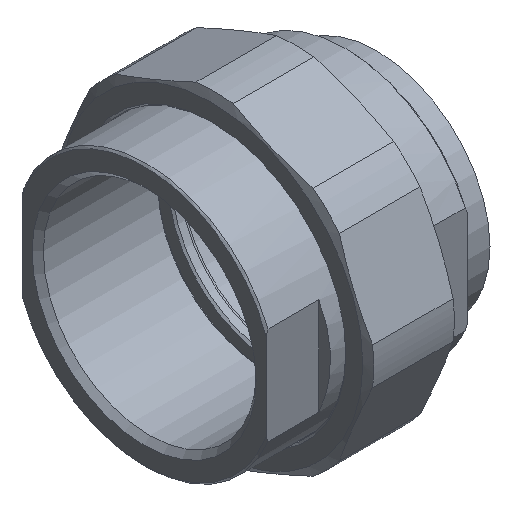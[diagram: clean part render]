
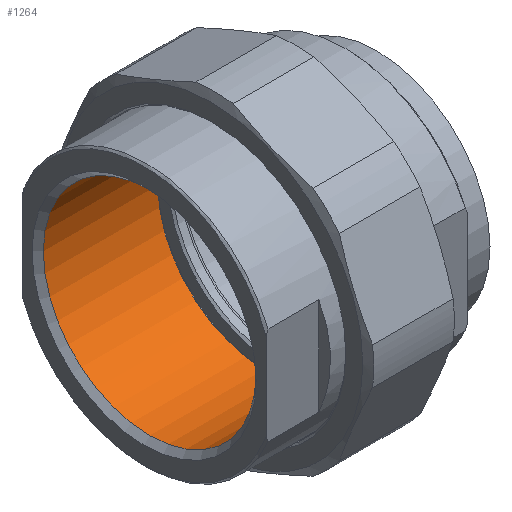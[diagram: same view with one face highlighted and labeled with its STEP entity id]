
A CAD part, isometric view. The second image highlights one B-rep face of the part: STEP entity #1264.
In plain terms, the highlighted cylindrical face has radius 28.328 mm (diameter 56.656 mm), a full revolution.
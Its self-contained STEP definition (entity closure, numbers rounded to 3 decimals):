
#202=FACE_OUTER_BOUND('',#289,.T.);
#289=EDGE_LOOP('',(#1150,#1151,#1152,#1153,#1154));
#347=LINE('',#2359,#405);
#405=VECTOR('',#1919,28.328);
#500=CIRCLE('',#1507,28.328);
#501=CIRCLE('',#1509,28.328);
#502=CIRCLE('',#1510,28.328);
#620=VERTEX_POINT('',#2351);
#621=VERTEX_POINT('',#2355);
#622=VERTEX_POINT('',#2356);
#798=EDGE_CURVE('',#620,#620,#500,.T.);
#799=EDGE_CURVE('',#621,#622,#501,.T.);
#800=EDGE_CURVE('',#622,#621,#502,.T.);
#801=EDGE_CURVE('',#622,#620,#347,.T.);
#1150=ORIENTED_EDGE('',*,*,#799,.F.);
#1151=ORIENTED_EDGE('',*,*,#800,.F.);
#1152=ORIENTED_EDGE('',*,*,#801,.T.);
#1153=ORIENTED_EDGE('',*,*,#798,.F.);
#1154=ORIENTED_EDGE('',*,*,#801,.F.);
#1192=CYLINDRICAL_SURFACE('',#1508,28.328);
#1264=ADVANCED_FACE('',(#202),#1192,.F.);
#1507=AXIS2_PLACEMENT_3D('',#2353,#1911,#1912);
#1508=AXIS2_PLACEMENT_3D('',#2354,#1913,#1914);
#1509=AXIS2_PLACEMENT_3D('',#2357,#1915,#1916);
#1510=AXIS2_PLACEMENT_3D('',#2358,#1917,#1918);
#1911=DIRECTION('center_axis',(-1.,0.,0.));
#1912=DIRECTION('ref_axis',(0.,0.,1.));
#1913=DIRECTION('center_axis',(-1.,0.,0.));
#1914=DIRECTION('ref_axis',(0.,0.,1.));
#1915=DIRECTION('center_axis',(1.,0.,0.));
#1916=DIRECTION('ref_axis',(0.,0.,-1.));
#1917=DIRECTION('center_axis',(1.,0.,0.));
#1918=DIRECTION('ref_axis',(0.,0.,-1.));
#1919=DIRECTION('',(1.,0.,0.));
#2351=CARTESIAN_POINT('',(-0.5,0.,-28.328));
#2353=CARTESIAN_POINT('Origin',(-0.5,0.,0.));
#2354=CARTESIAN_POINT('Origin',(77.082,0.,0.));
#2355=CARTESIAN_POINT('',(-31.,0.,28.328));
#2356=CARTESIAN_POINT('',(-31.,0.,-28.328));
#2357=CARTESIAN_POINT('Origin',(-31.,0.,0.));
#2358=CARTESIAN_POINT('Origin',(-31.,0.,0.));
#2359=CARTESIAN_POINT('',(77.082,0.,-28.328));
